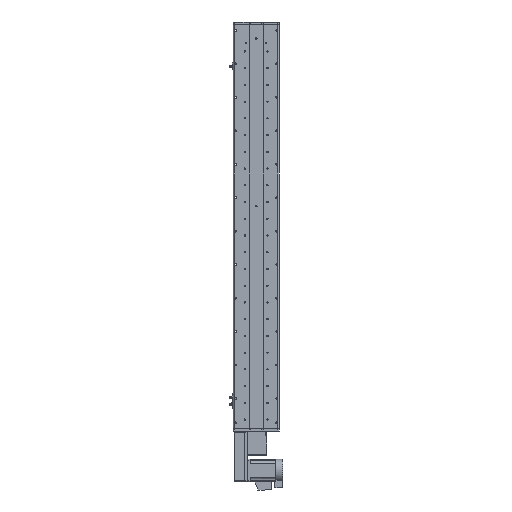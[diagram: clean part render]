
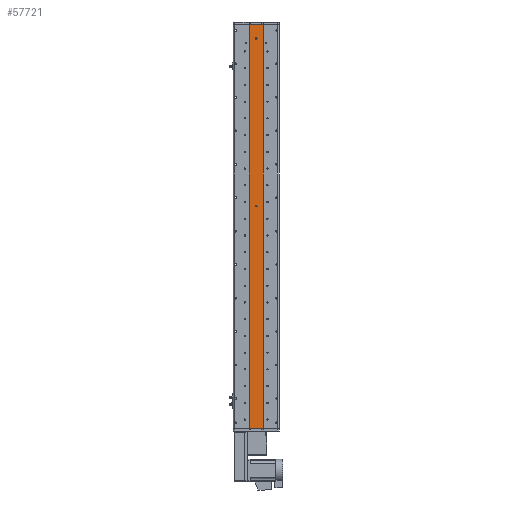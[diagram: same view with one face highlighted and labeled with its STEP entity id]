
A CAD part, front view. The second image highlights one B-rep face of the part: STEP entity #57721.
In plain terms, the highlighted planar face has unit normal (0, -1, 0).
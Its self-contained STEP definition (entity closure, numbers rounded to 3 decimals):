
#714 = FACE_BOUND ( 'NONE', #29606, .T. ) ;
#793 = DIRECTION ( 'NONE',  ( 0., -1., 0. ) ) ;
#858 = AXIS2_PLACEMENT_3D ( 'NONE', #31812, #793, #36999 ) ;
#4306 = CARTESIAN_POINT ( 'NONE',  ( 0., 1., 670.5 ) ) ;
#6766 = LINE ( 'NONE', #11846, #60050 ) ;
#7995 = CARTESIAN_POINT ( 'NONE',  ( 0., 1., 70.5 ) ) ;
#8681 = DIRECTION ( 'NONE',  ( 0., -1., 0. ) ) ;
#9914 = ORIENTED_EDGE ( 'NONE', *, *, #66688, .F. ) ;
#11846 = CARTESIAN_POINT ( 'NONE',  ( 25., 1., 723.5 ) ) ;
#12742 = CARTESIAN_POINT ( 'NONE',  ( 25., 1., 723.5 ) ) ;
#13684 = CIRCLE ( 'NONE', #60778, 3. ) ;
#14480 = FACE_BOUND ( 'NONE', #21977, .T. ) ;
#15543 = VERTEX_POINT ( 'NONE', #53492 ) ;
#15603 = CARTESIAN_POINT ( 'NONE',  ( 25., 1., -723.5 ) ) ;
#16100 = ORIENTED_EDGE ( 'NONE', *, *, #62922, .T. ) ;
#16356 = EDGE_CURVE ( 'NONE', #15543, #59089, #28914, .T. ) ;
#19334 = CARTESIAN_POINT ( 'NONE',  ( 0., 1., 673.5 ) ) ;
#19804 = LINE ( 'NONE', #12742, #59341 ) ;
#20914 = VERTEX_POINT ( 'NONE', #65649 ) ;
#21004 = CARTESIAN_POINT ( 'NONE',  ( 25., 1., 723.5 ) ) ;
#21844 = ORIENTED_EDGE ( 'NONE', *, *, #31300, .T. ) ;
#21977 = EDGE_LOOP ( 'NONE', ( #23086, #56089 ) ) ;
#22063 = AXIS2_PLACEMENT_3D ( 'NONE', #53772, #22877, #58931 ) ;
#22229 = VECTOR ( 'NONE', #45289, 1000. ) ;
#22278 = CARTESIAN_POINT ( 'NONE',  ( -25., 1., 723.5 ) ) ;
#22877 = DIRECTION ( 'NONE',  ( 0., -1., 0. ) ) ;
#23086 = ORIENTED_EDGE ( 'NONE', *, *, #50132, .F. ) ;
#24410 = LINE ( 'NONE', #15603, #51871 ) ;
#24549 = DIRECTION ( 'NONE',  ( 0., 0., -1. ) ) ;
#25983 = DIRECTION ( 'NONE',  ( 0., 0., 1. ) ) ;
#26930 = VERTEX_POINT ( 'NONE', #22278 ) ;
#28773 = EDGE_CURVE ( 'NONE', #44022, #41079, #13684, .T. ) ;
#28914 = CIRCLE ( 'NONE', #22063, 3. ) ;
#29239 = ORIENTED_EDGE ( 'NONE', *, *, #46715, .F. ) ;
#29584 = CIRCLE ( 'NONE', #37024, 3. ) ;
#29606 = EDGE_LOOP ( 'NONE', ( #44132, #29239 ) ) ;
#31020 = AXIS2_PLACEMENT_3D ( 'NONE', #67009, #56896, #25983 ) ;
#31300 = EDGE_CURVE ( 'NONE', #26930, #20914, #63437, .T. ) ;
#31812 = CARTESIAN_POINT ( 'NONE',  ( 0., 1., 73.5 ) ) ;
#32245 = EDGE_LOOP ( 'NONE', ( #16100, #9914, #50598, #21844 ) ) ;
#34419 = VERTEX_POINT ( 'NONE', #21004 ) ;
#36999 = DIRECTION ( 'NONE',  ( 0., 0., -1. ) ) ;
#37024 = AXIS2_PLACEMENT_3D ( 'NONE', #19334, #55452, #24549 ) ;
#37868 = DIRECTION ( 'NONE',  ( 0., 0., -1. ) ) ;
#39675 = CARTESIAN_POINT ( 'NONE',  ( 0., 1., 73.5 ) ) ;
#41079 = VERTEX_POINT ( 'NONE', #44502 ) ;
#43555 = VERTEX_POINT ( 'NONE', #56606 ) ;
#43974 = EDGE_CURVE ( 'NONE', #26930, #34419, #19804, .T. ) ;
#44022 = VERTEX_POINT ( 'NONE', #7995 ) ;
#44132 = ORIENTED_EDGE ( 'NONE', *, *, #28773, .F. ) ;
#44502 = CARTESIAN_POINT ( 'NONE',  ( 0., 1., 76.5 ) ) ;
#44863 = DIRECTION ( 'NONE',  ( 0., 0., -1. ) ) ;
#45289 = DIRECTION ( 'NONE',  ( 0., 0., -1. ) ) ;
#46532 = PLANE ( 'NONE',  #31020 ) ;
#46715 = EDGE_CURVE ( 'NONE', #41079, #44022, #61301, .T. ) ;
#48897 = DIRECTION ( 'NONE',  ( 1., 0., 0. ) ) ;
#50132 = EDGE_CURVE ( 'NONE', #59089, #15543, #29584, .T. ) ;
#50598 = ORIENTED_EDGE ( 'NONE', *, *, #43974, .F. ) ;
#51717 = DIRECTION ( 'NONE',  ( 1., 0., 0. ) ) ;
#51871 = VECTOR ( 'NONE', #51717, 1000. ) ;
#53492 = CARTESIAN_POINT ( 'NONE',  ( 0., 1., 676.5 ) ) ;
#53772 = CARTESIAN_POINT ( 'NONE',  ( 0., 1., 673.5 ) ) ;
#54070 = FACE_OUTER_BOUND ( 'NONE', #32245, .T. ) ;
#55452 = DIRECTION ( 'NONE',  ( 0., -1., 0. ) ) ;
#56089 = ORIENTED_EDGE ( 'NONE', *, *, #16356, .F. ) ;
#56606 = CARTESIAN_POINT ( 'NONE',  ( 25., 1., -723.5 ) ) ;
#56896 = DIRECTION ( 'NONE',  ( 0., 1., 0. ) ) ;
#57721 = ADVANCED_FACE ( 'NONE', ( #714, #14480, #54070 ), #46532, .F. ) ;
#58931 = DIRECTION ( 'NONE',  ( 0., 0., -1. ) ) ;
#59089 = VERTEX_POINT ( 'NONE', #4306 ) ;
#59341 = VECTOR ( 'NONE', #48897, 1000. ) ;
#60050 = VECTOR ( 'NONE', #37868, 1000. ) ;
#60778 = AXIS2_PLACEMENT_3D ( 'NONE', #39675, #8681, #44863 ) ;
#60807 = CARTESIAN_POINT ( 'NONE',  ( -25., 1., 723.5 ) ) ;
#61301 = CIRCLE ( 'NONE', #858, 3. ) ;
#62922 = EDGE_CURVE ( 'NONE', #20914, #43555, #24410, .T. ) ;
#63437 = LINE ( 'NONE', #60807, #22229 ) ;
#65649 = CARTESIAN_POINT ( 'NONE',  ( -25., 1., -723.5 ) ) ;
#66688 = EDGE_CURVE ( 'NONE', #34419, #43555, #6766, .T. ) ;
#67009 = CARTESIAN_POINT ( 'NONE',  ( 25., 1., 723.5 ) ) ;
